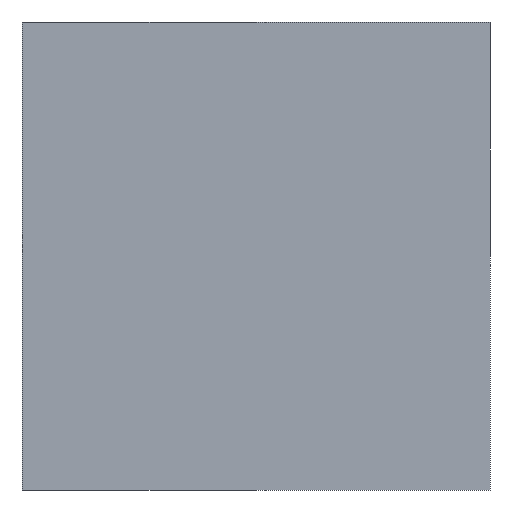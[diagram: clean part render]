
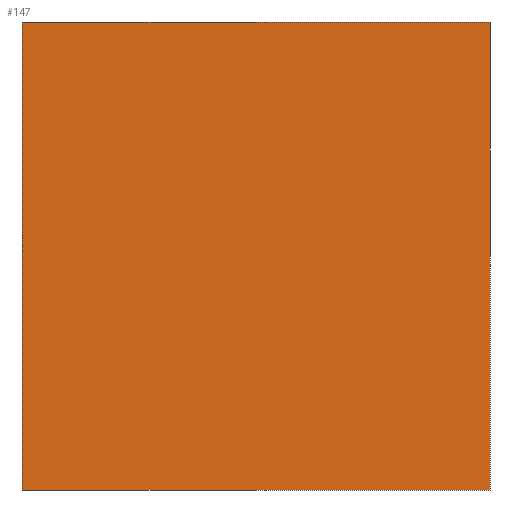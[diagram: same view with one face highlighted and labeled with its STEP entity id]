
A CAD part, front view. The second image highlights one B-rep face of the part: STEP entity #147.
In plain terms, the highlighted planar face has unit normal (0, -1, 0).
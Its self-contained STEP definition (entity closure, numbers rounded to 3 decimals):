
#101 = EDGE_CURVE( '', #177, #173, #248, .T. );
#109 = EDGE_CURVE( '', #187, #177, #257, .T. );
#137 = VERTEX_POINT( '', #289 );
#147 = ADVANCED_FACE( '', ( #299 ), #300, .F. );
#155 = EDGE_CURVE( '', #137, #187, #308, .T. );
#173 = VERTEX_POINT( '', #330 );
#175 = EDGE_CURVE( '', #173, #137, #332, .T. );
#177 = VERTEX_POINT( '', #334 );
#187 = VERTEX_POINT( '', #344 );
#248 = LINE( '', #411, #412 );
#257 = LINE( '', #423, #424 );
#289 = CARTESIAN_POINT( '', ( -12.5, -35., -12.5 ) );
#299 = FACE_OUTER_BOUND( '', #483, .T. );
#300 = PLANE( '', #484 );
#308 = LINE( '', #497, #498 );
#330 = CARTESIAN_POINT( '', ( 12.5, -35., -12.5 ) );
#332 = LINE( '', #526, #527 );
#334 = CARTESIAN_POINT( '', ( 12.5, -35., 12.5 ) );
#344 = CARTESIAN_POINT( '', ( -12.5, -35., 12.5 ) );
#411 = CARTESIAN_POINT( '', ( 12.5, -35., 12.5 ) );
#412 = VECTOR( '', #601, 1. );
#423 = CARTESIAN_POINT( '', ( -12.5, -35., 12.5 ) );
#424 = VECTOR( '', #612, 1. );
#483 = EDGE_LOOP( '', ( #655, #656, #657, #658 ) );
#484 = AXIS2_PLACEMENT_3D( '', #659, #660, #661 );
#497 = CARTESIAN_POINT( '', ( -12.5, -35., -12.5 ) );
#498 = VECTOR( '', #664, 1. );
#526 = CARTESIAN_POINT( '', ( 12.5, -35., -12.5 ) );
#527 = VECTOR( '', #691, 1. );
#601 = DIRECTION( '', ( 0., 0., -1. ) );
#612 = DIRECTION( '', ( 1., 0., 0. ) );
#655 = ORIENTED_EDGE( '', *, *, #155, .F. );
#656 = ORIENTED_EDGE( '', *, *, #175, .F. );
#657 = ORIENTED_EDGE( '', *, *, #101, .F. );
#658 = ORIENTED_EDGE( '', *, *, #109, .F. );
#659 = CARTESIAN_POINT( '', ( 0., -35., 0. ) );
#660 = DIRECTION( '', ( 0., 1., 0. ) );
#661 = DIRECTION( '', ( 0., 0., 1. ) );
#664 = DIRECTION( '', ( 0., 0., 1. ) );
#691 = DIRECTION( '', ( -1., 0., 0. ) );
